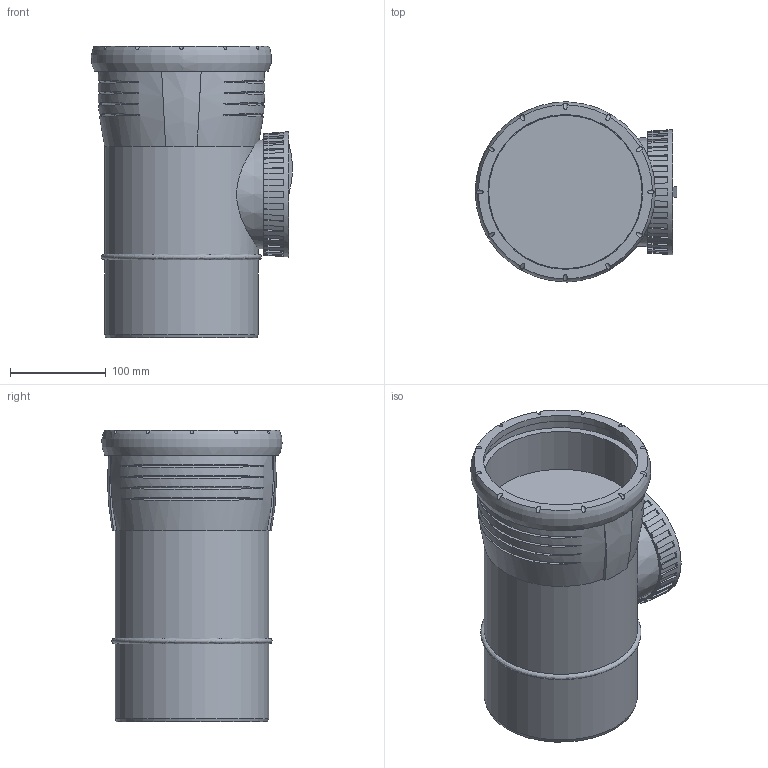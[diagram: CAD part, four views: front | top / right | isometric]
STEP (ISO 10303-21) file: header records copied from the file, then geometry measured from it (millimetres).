
FILE_DESCRIPTION(/* description */ (''),/* implementation_level */ '2;1');
FILE_NAME(/* name */ 'H:\Geberit-Teile\Export\Rein Stück PP\stp\393727.stp',/* time_stamp */ '2017-02-13T15:12:25+01:00',/* author */ ('seihe2'),/* organization */ (''),/* preprocessor_version */ 'ST-DEVELOPER v15.2',/* originating_system */ 'Autodesk Inventor 2014',/* authorisation */ '');
FILE_SCHEMA (('AUTOMOTIVE_DESIGN { 1 0 10303 214 3 1 1 }'));
Length unit declared in the file: millimetre
Products named in the file (1): 393727
Bounding box: 210.21 x 188.24 x 305 mm (x, y, z)
Volume: 5103653 mm3; surface area: 451025.6 mm2
Topology: 5 solids, 5 shells, 205 faces, 555 edges, 374 vertices
Faces by surface type: plane 148, cylinder 23, bspline 23, cone 10, torus 1
Full cylindrical faces by diameter (mm): 114.66 x1, 126.565 x1, 148.25 x1, 160.2 x1, 160.25 x2, 161.2 x1, 161.7 x1, 174.9 x1
Entity records: 8847 total; most frequent: CARTESIAN_POINT 3829, ORIENTED_EDGE 1064, DIRECTION 896, EDGE_CURVE 531, VERTEX_POINT 367, AXIS2_PLACEMENT_3D 317, LINE 262, VECTOR 262
